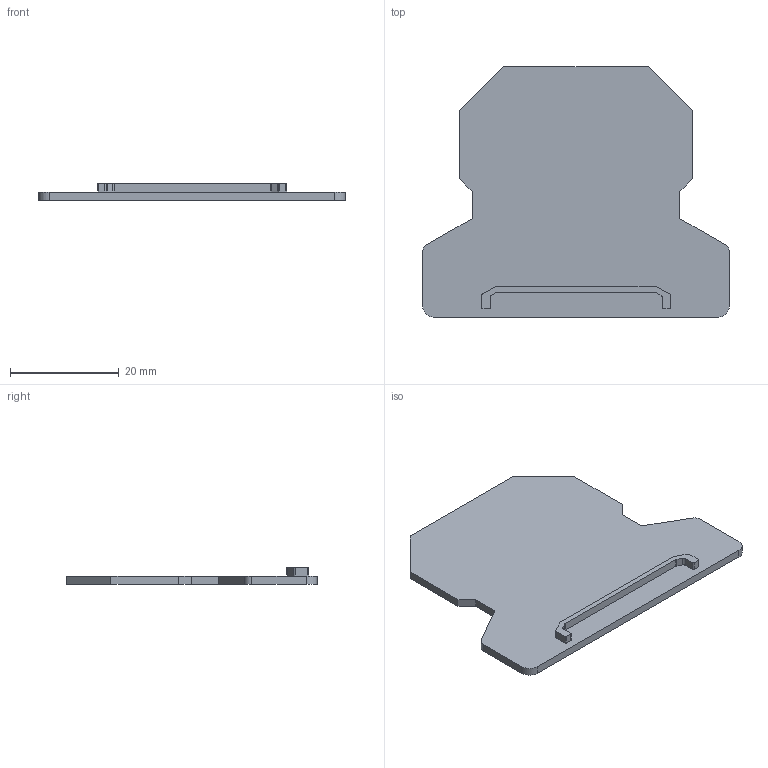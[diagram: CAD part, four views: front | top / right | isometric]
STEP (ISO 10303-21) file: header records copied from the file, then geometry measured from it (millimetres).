
FILE_DESCRIPTION((''),'2;1');
FILE_NAME('PRT0002','2020-05-21T',('Administrator'),(''),'PRO/ENGINEER BY PARAMETRIC TECHNOLOGY CORPORATION, 2012360','PRO/ENGINEER BY PARAMETRIC TECHNOLOGY CORPORATION, 2012360','');
FILE_SCHEMA(('CONFIG_CONTROL_DESIGN'));
Length unit declared in the file: millimetre
Products named in the file (1): PRT0002
Bounding box: 56.4 x 46 x 3 mm (x, y, z)
Volume: 3169.3 mm3; surface area: 4551.4 mm2
Topology: 1 solids, 1 shells, 45 faces, 126 edges, 84 vertices
Faces by surface type: plane 29, cylinder 16
Entity records: 1490 total; most frequent: CARTESIAN_POINT 255, ORIENTED_EDGE 252, DIRECTION 248, EDGE_CURVE 126, VECTOR 94, LINE 94, VERTEX_POINT 84, AXIS2_PLACEMENT_3D 77
